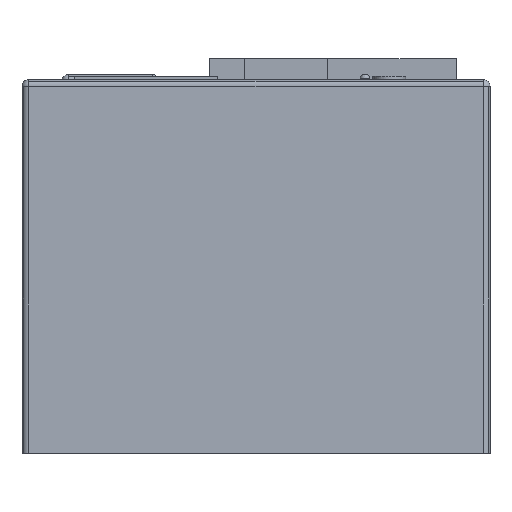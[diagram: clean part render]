
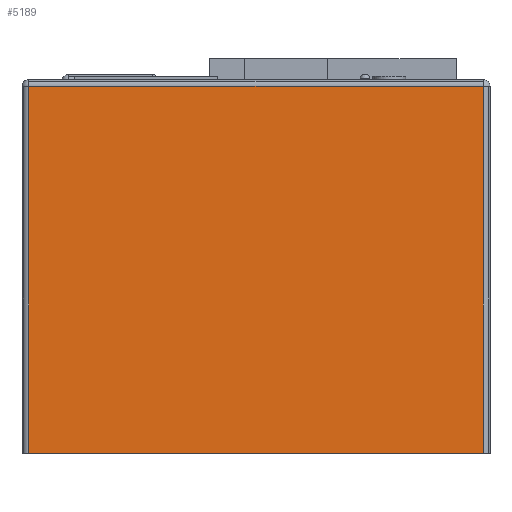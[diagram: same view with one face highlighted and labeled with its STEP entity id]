
A CAD part, front view. The second image highlights one B-rep face of the part: STEP entity #5189.
In plain terms, the highlighted planar face has unit normal (0, -1, 0.018).
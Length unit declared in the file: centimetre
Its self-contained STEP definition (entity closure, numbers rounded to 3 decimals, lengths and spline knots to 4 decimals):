
#693=DIRECTION('',(1.,0.,0.));
#694=VECTOR('',#693,13.5);
#695=CARTESIAN_POINT('',(-6.75,-2.2514,10.8987));
#696=LINE('',#695,#694);
#736=CARTESIAN_POINT('',(6.75,-2.4526,0.));
#741=DIRECTION('',(0.,-0.018,-1.));
#742=VECTOR('',#741,10.9005);
#743=CARTESIAN_POINT('',(6.75,-2.2514,10.8987));
#744=LINE('',#743,#742);
#749=DIRECTION('',(-1.,0.,0.));
#750=VECTOR('',#749,13.5);
#751=CARTESIAN_POINT('',(6.75,-2.4526,0.));
#752=LINE('',#751,#750);
#790=DIRECTION('',(0.,0.018,1.));
#791=VECTOR('',#790,10.9005);
#792=CARTESIAN_POINT('',(-6.75,-2.4526,0.));
#793=LINE('',#792,#791);
#3083=VERTEX_POINT('',#736);
#3084=CARTESIAN_POINT('',(6.75,-2.2514,10.8987));
#3085=VERTEX_POINT('',#3084);
#3090=CARTESIAN_POINT('',(-6.75,-2.2514,10.8987));
#3091=VERTEX_POINT('',#3090);
#3096=CARTESIAN_POINT('',(-6.75,-2.4526,0.));
#3097=VERTEX_POINT('',#3096);
#5178=CARTESIAN_POINT('',(0.,-2.352,5.4493));
#5179=DIRECTION('',(0.,1.,-0.018));
#5180=DIRECTION('',(0.,0.018,1.));
#5181=AXIS2_PLACEMENT_3D('',#5178,#5179,#5180);
#5182=PLANE('',#5181);
#5183=ORIENTED_EDGE('',*,*,#5158,.T.);
#5184=ORIENTED_EDGE('',*,*,#4975,.T.);
#5185=ORIENTED_EDGE('',*,*,#5021,.T.);
#5186=ORIENTED_EDGE('',*,*,#5039,.T.);
#5187=EDGE_LOOP('',(#5183,#5184,#5185,#5186));
#5188=FACE_OUTER_BOUND('',#5187,.F.);
#5189=ADVANCED_FACE('',(#5188),#5182,.F.);
#4975=EDGE_CURVE('',#3091,#3085,#696,.T.);
#5021=EDGE_CURVE('',#3085,#3083,#744,.T.);
#5039=EDGE_CURVE('',#3083,#3097,#752,.T.);
#5158=EDGE_CURVE('',#3097,#3091,#793,.T.);
